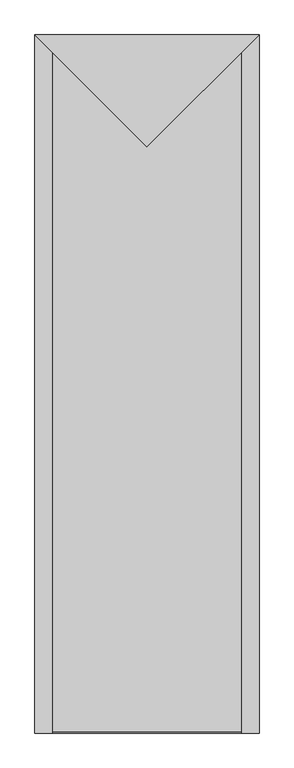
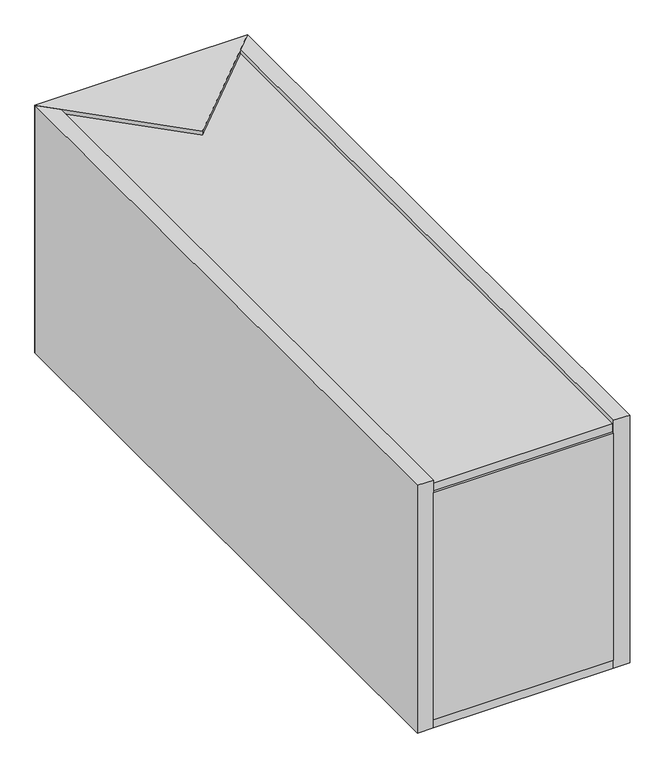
"""IFC4 building model written with IfcOpenShell, lengths in millimetres: proxy geometry, AERO^OFFICE 3_UPPER WARDROBE-PARTS SOLID."""

import ifcopenshell
import ifcopenshell.guid

model = None  # the IFC model being written
_history = None  # IfcOwnerHistory: only IFC2X3 demands one
_inside = {}  # id of a spatial element -> (the spatial element, [elements in it])
_under = {}  # id of a project, library or spatial element -> (it, [spatial elements below it])
_declared = {}  # id of a project -> (the project, [libraries it declares])
_typed = {}  # id of a type object -> (the type object, [elements of that type])
_made_of = {}  # id of a material, layer set ... -> (it, [elements and type objects made of it])


def new_model(schema):
    """Start an empty IFC model of exactly this schema.

    Asked for "IFC4X3", IfcOpenShell would pick the latest addendum, in which some entities
    have other attributes; the version numbers below select the first issue.
    IFC2X3 requires an IfcOwnerHistory on every rooted entity: one is made here for all.
    """
    global model, _history
    if schema == "IFC4X3":
        model = ifcopenshell.file(schema_version=(4, 3, 0, 0))
    else:
        model = ifcopenshell.file(schema=schema)
    _inside.clear()
    _under.clear()
    _declared.clear()
    _typed.clear()
    _made_of.clear()
    _history = None
    if model.schema == "IFC2X3":
        org = make("IfcOrganization", Name="unknown")
        user = make(
            "IfcPersonAndOrganization",
            ThePerson=make("IfcPerson", FamilyName="unknown"),
            TheOrganization=org,
        )
        app = make(
            "IfcApplication",
            ApplicationDeveloper=org,
            Version="unknown",
            ApplicationFullName="unknown",
            ApplicationIdentifier="unknown",
        )
        _history = make(
            "IfcOwnerHistory",
            OwningUser=user,
            OwningApplication=app,
            ChangeAction="ADDED",
            CreationDate=0,
        )
    return model


def make(cls, **values):
    """One entity of the class cls with the attributes given. An attribute that is None is left unset."""
    return model.create_entity(
        cls, **{name: value for name, value in values.items() if value is not None}
    )


def rooted(cls, **values):
    """An entity with a GlobalId (a new one), such as an element, a storey or a relation."""
    return make(cls, GlobalId=ifcopenshell.guid.new(), OwnerHistory=_history, **values)


def si_unit(unit_type, name, prefix=None):
    """IfcSIUnit, for example si_unit("LENGTHUNIT", "METRE", prefix="MILLI")."""
    return make("IfcSIUnit", UnitType=unit_type, Prefix=prefix, Name=name)


def assignment(units):
    """IfcUnitAssignment: the units of a project."""
    return None if units is None else make("IfcUnitAssignment", Units=units)


def point(xyz):
    """IfcCartesianPoint."""
    return None if xyz is None else make("IfcCartesianPoint", Coordinates=xyz)


def direction(xyz):
    """IfcDirection."""
    return None if xyz is None else make("IfcDirection", DirectionRatios=xyz)


def frame(location, z_axis=None, x_axis=None):
    """IfcAxis2Placement3D, a coordinate frame: its origin and axes. An axis left out is left unset."""
    return make(
        "IfcAxis2Placement3D",
        Location=point(location),
        Axis=direction(z_axis),
        RefDirection=direction(x_axis),
    )


def origin():
    """The frame at (0, 0, 0) with its axes left unset."""
    return frame((0.0, 0.0, 0.0))


def place(relative_to, where):
    """IfcLocalPlacement: puts the frame where relative to a parent placement (None: the world)."""
    return make(
        "IfcLocalPlacement", PlacementRelTo=relative_to, RelativePlacement=where
    )


def context(
    kind, dimensions, precision=None, world=None, true_north=None, identifier=None
):
    """IfcGeometricRepresentationContext, for example the 3D "Model" context."""
    return make(
        "IfcGeometricRepresentationContext",
        ContextIdentifier=identifier,
        ContextType=kind,
        CoordinateSpaceDimension=dimensions,
        Precision=precision,
        WorldCoordinateSystem=world,
        TrueNorth=true_north,
    )


def project(units=None, contexts=None):
    """IfcProject with its units and contexts."""
    return rooted(
        "IfcProject",
        Name="project",
        RepresentationContexts=contexts,
        UnitsInContext=assignment(units),
    )


def spatial(cls, under=None, at=None, **own):
    """A site, building, storey or space (cls), placed at a placement, below another one or the project."""
    s = rooted(cls, ObjectPlacement=at, **own)
    if under is not None:
        _under.setdefault(under.id(), (under, []))[1].append(s)
    return s


def polyline(points):
    """IfcPolyline through the points."""
    return make("IfcPolyline", Points=[point(p) for p in points])


def outline(outer, holes=None, kind="AREA"):
    """IfcArbitraryClosedProfileDef: a profile drawn as a closed curve; with holes, ...WithVoids."""
    if holes is None:
        return make("IfcArbitraryClosedProfileDef", ProfileType=kind, OuterCurve=outer)
    return make(
        "IfcArbitraryProfileDefWithVoids",
        ProfileType=kind,
        OuterCurve=outer,
        InnerCurves=holes,
    )


def extrude(swept, where, along, depth):
    """IfcExtrudedAreaSolid: the profile swept, set in the frame where, extruded along a direction by depth."""
    return make(
        "IfcExtrudedAreaSolid",
        SweptArea=swept,
        Position=where,
        ExtrudedDirection=direction(along),
        Depth=depth,
    )


def shape(context_of_items, identifier, shape_type, items):
    """IfcShapeRepresentation: the items that make up one representation, for example the "Body"."""
    return make(
        "IfcShapeRepresentation",
        ContextOfItems=context_of_items,
        RepresentationIdentifier=identifier,
        RepresentationType=shape_type,
        Items=items,
    )


def source(mapping_origin, context_of_items, identifier, shape_type, items):
    """IfcRepresentationMap: a shape defined once, which mapped items show again and again."""
    return make(
        "IfcRepresentationMap",
        MappingOrigin=mapping_origin,
        MappedRepresentation=shape(context_of_items, identifier, shape_type, items),
    )


def transform(
    local_origin,
    x_axis=None,
    y_axis=None,
    z_axis=None,
    scale=None,
    scale2=None,
    scale3=None,
    uniform=True,
):
    """IfcCartesianTransformationOperator3D, or its non-uniform kind. x_axis, y_axis, z_axis: its Axis1, 2, 3."""
    if uniform:
        return make(
            "IfcCartesianTransformationOperator3D",
            Axis1=direction(x_axis),
            Axis2=direction(y_axis),
            LocalOrigin=point(local_origin),
            Scale=scale,
            Axis3=direction(z_axis),
        )
    return make(
        "IfcCartesianTransformationOperator3DnonUniform",
        Axis1=direction(x_axis),
        Axis2=direction(y_axis),
        LocalOrigin=point(local_origin),
        Scale=scale,
        Axis3=direction(z_axis),
        Scale2=scale2,
        Scale3=scale3,
    )


def mapped(mapping_source, mapping_target):
    """IfcMappedItem: shows the shape of a source again, moved by a transform."""
    return make(
        "IfcMappedItem", MappingSource=mapping_source, MappingTarget=mapping_target
    )


def made_of(thing, what):
    """Note that an element or type object is made of a material, layer set ...; save() writes the relation."""
    if what is not None:
        _made_of.setdefault(what.id(), (what, []))[1].append(thing)
    return thing


def element(
    cls,
    number,
    at=None,
    inside=None,
    cuts=None,
    type_object=None,
    material=None,
    context=None,
    identifier="Body",
    shape_type=None,
    held_by="IfcProductDefinitionShape",
    body=None,
    shapes=None,
    **own,
):
    """One element of the class cls, such as IfcWall. Its Tag is "e" and its number.

    at: its placement. inside: the storey or other place that contains it. cuts: it is an
    opening in that element (IfcRelVoidsElement). A single representation is given by context,
    identifier, shape_type and body (its items); several are given by shapes. held_by: the class
    of the entity that holds the representations. save() writes the other relations.
    """
    e = rooted(cls, Tag="e%d" % number, ObjectPlacement=at, **own)
    if body is not None:
        shapes = [shape(context, identifier, shape_type, body)]
    if shapes is not None:
        e.Representation = make(held_by, Representations=shapes)
    if inside is not None:
        _inside.setdefault(inside.id(), (inside, []))[1].append(e)
    if cuts is not None:
        rooted(
            "IfcRelVoidsElement", RelatingBuildingElement=cuts, RelatedOpeningElement=e
        )
    if type_object is not None:
        _typed.setdefault(type_object.id(), (type_object, []))[1].append(e)
    return made_of(e, material)


def aggregate(whole, parts):
    """IfcRelAggregates: a whole, such as a stair, and the parts it consists of."""
    return rooted("IfcRelAggregates", RelatingObject=whole, RelatedObjects=parts)


def save(model, path):
    """Write the relations noted so far, then the file.

    IfcRelAggregates (storeys below a building ...), IfcRelContainedInSpatialStructure (elements
    in a storey), IfcRelDefinesByType, IfcRelAssociatesMaterial and IfcRelDeclares: one each for
    every whole, place, type object, material and project.
    """
    for whole, parts in _under.values():
        aggregate(whole, parts)
    for where, things in _inside.values():
        rooted(
            "IfcRelContainedInSpatialStructure",
            RelatedElements=things,
            RelatingStructure=where,
        )
    for kind, things in _typed.values():
        rooted("IfcRelDefinesByType", RelatedObjects=things, RelatingType=kind)
    for what, things in _made_of.values():
        rooted("IfcRelAssociatesMaterial", RelatedObjects=things, RelatingMaterial=what)
    for by, libraries in _declared.values():
        rooted("IfcRelDeclares", RelatingContext=by, RelatedDefinitions=libraries)
    model.write(path)


def generic_models_f6d9182c(model_context):
    return source(origin(), model_context, "Body", "SweptSolid", [
        extrude(outline(polyline([(38.1, 0.0), (38.1, 19.05), (457.2, 19.05), (457.2, 0.0), (38.1, 0.0)])), frame((0.0, 0.0, -590.55), z_axis=(0.0, 0.0, 1.0), x_axis=(1.0, 0.0, 0.0)), (0.0, 0.0, 1.0), 558.8),
        extrude(outline(polyline([(495.3, 1543.05), (247.65, 1295.4), (0.0, 1543.05), (495.3, 1543.05)])), frame((0.0, 0.0, -609.6), z_axis=(0.0, 0.0, 1.0), x_axis=(1.0, 0.0, 0.0)), (0.0, 0.0, 1.0), 609.6),
        extrude(outline(polyline([(457.2, 0.0), (457.2, 1504.95), (495.3, 1543.05), (495.3, 0.0), (457.2, 0.0)])), frame((0.0, 0.0, -609.6), z_axis=(0.0, 0.0, 1.0), x_axis=(1.0, 0.0, 0.0)), (0.0, 0.0, 1.0), 609.6),
        extrude(outline(polyline([(457.2, 0.0), (38.1, 0.0), (38.1, 1504.95), (457.2, 1504.95), (457.2, 0.0)])), frame((0.0, 0.0, -609.6), z_axis=(0.0, 0.0, 1.0), x_axis=(1.0, 0.0, 0.0)), (0.0, 0.0, 1.0), 19.05),
        extrude(outline(polyline([(466.725, 1514.475), (466.725, 2.38125), (28.575, 2.38125), (28.575, 1514.475), (466.725, 1514.475)])), frame((0.0, 0.0, -28.575), z_axis=(0.0, 0.0, 1.0), x_axis=(1.0, 0.0, 0.0)), (0.0, 0.0, 1.0), 19.05),
        extrude(outline(polyline([(0.0, 1543.05), (38.1, 1504.95), (38.1, 0.0), (0.0, 0.0), (0.0, 1543.05)])), frame((0.0, 0.0, -609.6), z_axis=(0.0, 0.0, 1.0), x_axis=(1.0, 0.0, 0.0)), (0.0, 0.0, 1.0), 609.6),
    ])


if __name__ == "__main__":
    model = new_model("IFC4")
    model_context = context("Model", 3, world=origin())
    ifc_project = project(units=[si_unit("LENGTHUNIT", "METRE", prefix="MILLI")], contexts=[model_context])
    site = spatial("IfcSite", under=ifc_project)
    building = spatial("IfcBuilding", under=site)
    placement = place(None, origin())
    generic_models_shape = generic_models_f6d9182c(model_context)
    element("IfcBuildingElementProxy", 1, Name="AERO^OFFICE 3_UPPER WARDROBE-PARTS SOLID", ObjectType="AERO^OFFICE 3_UPPER WARDROBE-PARTS SOLID", at=placement, inside=building, context=model_context, shape_type="MappedRepresentation", body=[
        mapped(generic_models_shape, transform((0.0, 0.0, 0.0), x_axis=(1.0, 0.0, 0.0), y_axis=(0.0, 1.0, 0.0), z_axis=(0.0, 0.0, 1.0))),
    ])
    save(model, "model.ifc")
